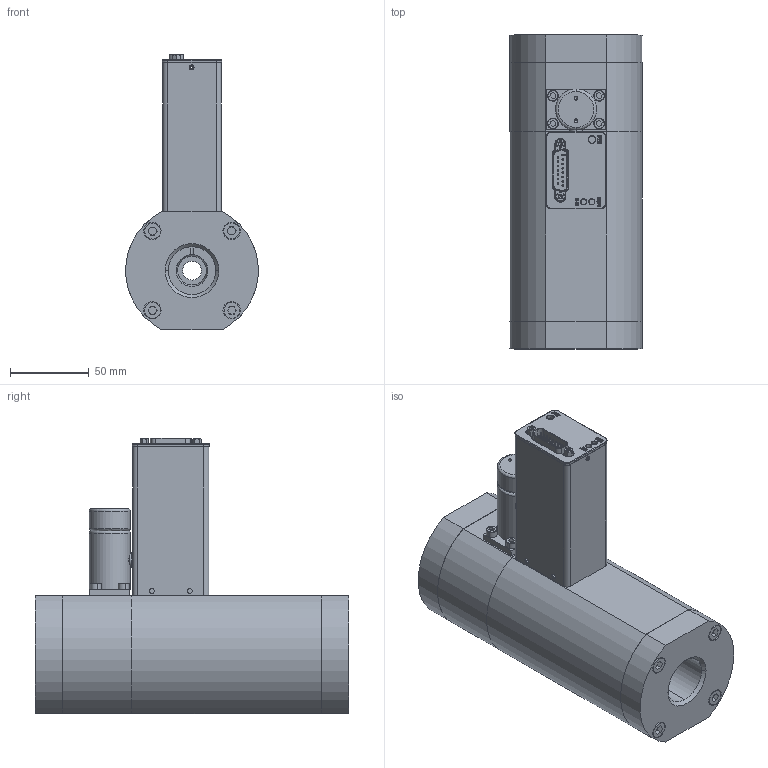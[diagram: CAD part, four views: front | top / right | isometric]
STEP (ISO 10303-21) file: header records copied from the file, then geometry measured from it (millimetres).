
FILE_DESCRIPTION (( 'STEP AP203' ), '1' );
FILE_NAME ('SLA5853-S-2P-2-C-REVB.STEP', '2020-04-16T19:57:46', ( '' ), ( '' ), 'SwSTEP 2.0', 'SolidWorks 2019', '' );
FILE_SCHEMA (( 'CONFIG_CONTROL_DESIGN' ));
Length unit declared in the file: inch
Products named in the file (2): SLA5853-S-2P-2-C-REVB
Bounding box: 83.7 x 198.8 x 174.37 mm (x, y, z)
Volume: 730336.4 mm3; surface area: 197969 mm2
Topology: 27 solids, 27 shells, 1449 faces, 3690 edges, 2318 vertices
Faces by surface type: plane 549, cylinder 468, cone 300, bspline 132
Entity records: 47770 total; most frequent: CARTESIAN_POINT 12744, DIRECTION 7280, ORIENTED_EDGE 7276, EDGE_CURVE 3638, AXIS2_PLACEMENT_3D 2703, VERTEX_POINT 2318, VECTOR 1874, LINE 1874
